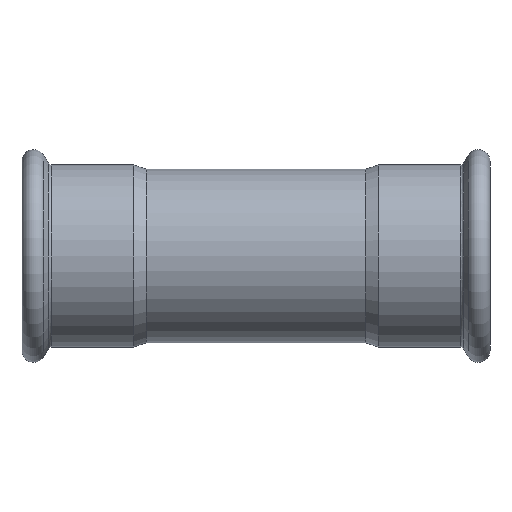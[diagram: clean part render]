
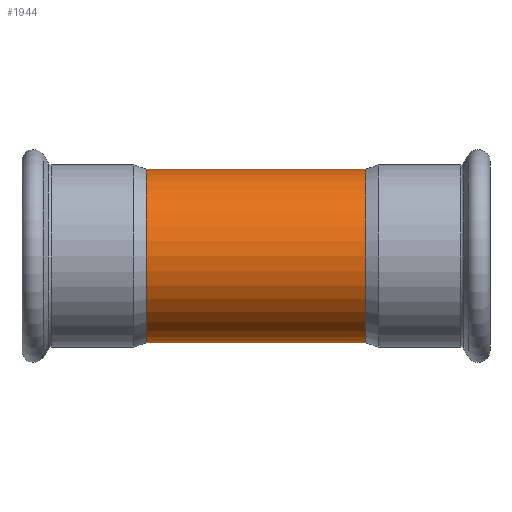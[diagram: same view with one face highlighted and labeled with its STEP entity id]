
A CAD part, front view. The second image highlights one B-rep face of the part: STEP entity #1944.
In plain terms, the highlighted cylindrical face has radius 44.45 mm (diameter 88.9 mm), a full revolution.
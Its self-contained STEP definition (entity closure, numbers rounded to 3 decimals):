
#1759=CARTESIAN_POINT('',(0.,42.674,12.44));
#1760=VERTEX_POINT('',#1759);
#1831=CARTESIAN_POINT('',(0.,42.674,12.44));
#1832=CARTESIAN_POINT('',(0.,42.674,12.44));
#1833=CARTESIAN_POINT('',(0.,42.674,12.44));
#1834=CARTESIAN_POINT('',(0.,42.674,12.44));
#1835=CARTESIAN_POINT('',(0.486,42.674,12.44));
#1836=CARTESIAN_POINT('',(1.459,42.689,12.387));
#1837=CARTESIAN_POINT('',(3.375,42.778,12.078));
#1838=CARTESIAN_POINT('',(5.241,42.953,11.451));
#1839=CARTESIAN_POINT('',(6.933,43.181,10.554));
#1840=CARTESIAN_POINT('',(8.117,43.37,9.75));
#1841=CARTESIAN_POINT('',(9.207,43.57,8.82));
#1842=CARTESIAN_POINT('',(10.069,43.746,7.897));
#1843=CARTESIAN_POINT('',(10.738,43.892,7.033));
#1844=CARTESIAN_POINT('',(11.428,44.051,5.987));
#1845=CARTESIAN_POINT('',(12.139,44.225,4.581));
#1846=CARTESIAN_POINT('',(12.715,44.374,2.806));
#1847=CARTESIAN_POINT('',(13.012,44.453,0.949));
#1848=CARTESIAN_POINT('',(13.012,44.453,-0.621));
#1849=CARTESIAN_POINT('',(12.867,44.415,-1.851));
#1850=CARTESIAN_POINT('',(12.626,44.351,-3.078));
#1851=CARTESIAN_POINT('',(12.239,44.251,-4.274));
#1852=CARTESIAN_POINT('',(11.718,44.122,-5.413));
#1853=CARTESIAN_POINT('',(11.117,43.978,-6.501));
#1854=CARTESIAN_POINT('',(10.202,43.771,-7.785));
#1855=CARTESIAN_POINT('',(8.877,43.504,-9.151));
#1856=CARTESIAN_POINT('',(7.371,43.244,-10.303));
#1857=CARTESIAN_POINT('',(5.963,43.047,-11.085));
#1858=CARTESIAN_POINT('',(4.774,42.915,-11.583));
#1859=CARTESIAN_POINT('',(3.557,42.802,-11.993));
#1860=CARTESIAN_POINT('',(1.966,42.701,-12.346));
#1861=CARTESIAN_POINT('',(0.001,42.66,-12.487));
#1862=CARTESIAN_POINT('',(-1.939,42.701,-12.348));
#1863=CARTESIAN_POINT('',(-3.859,42.821,-11.929));
#1864=CARTESIAN_POINT('',(-5.22,42.96,-11.415));
#1865=CARTESIAN_POINT('',(-6.369,43.104,-10.859));
#1866=CARTESIAN_POINT('',(-7.479,43.263,-10.219));
#1867=CARTESIAN_POINT('',(-8.878,43.504,-9.15));
#1868=CARTESIAN_POINT('',(-10.19,43.769,-7.798));
#1869=CARTESIAN_POINT('',(-11.168,43.989,-6.432));
#1870=CARTESIAN_POINT('',(-11.861,44.157,-5.141));
#1871=CARTESIAN_POINT('',(-12.335,44.275,-3.993));
#1872=CARTESIAN_POINT('',(-12.75,44.383,-2.594));
#1873=CARTESIAN_POINT('',(-12.963,44.44,-1.248));
#1874=CARTESIAN_POINT('',(-13.012,44.453,-0.002));
#1875=CARTESIAN_POINT('',(-12.964,44.44,1.237));
#1876=CARTESIAN_POINT('',(-12.72,44.375,2.788));
#1877=CARTESIAN_POINT('',(-12.235,44.25,4.283));
#1878=CARTESIAN_POINT('',(-11.719,44.122,5.412));
#1879=CARTESIAN_POINT('',(-11.113,43.977,6.507));
#1880=CARTESIAN_POINT('',(-10.286,43.79,7.666));
#1881=CARTESIAN_POINT('',(-9.209,43.571,8.817));
#1882=CARTESIAN_POINT('',(-7.773,43.307,10.047));
#1883=CARTESIAN_POINT('',(-6.111,43.058,11.049));
#1884=CARTESIAN_POINT('',(-4.325,42.867,11.759));
#1885=CARTESIAN_POINT('',(-2.445,42.721,12.282));
#1886=CARTESIAN_POINT('',(-0.971,42.674,12.44));
#1887=CARTESIAN_POINT('',(0.,42.674,12.44));
#1888=B_SPLINE_CURVE_WITH_KNOTS('',3,(#1831,#1832,#1833,#1834,#1835,#1836,#1837,#1838,#1839,#1840,#1841,#1842,#1843,#1844,#1845,#1846,#1847,#1848,#1849,#1850,#1851,#1852,#1853,#1854,#1855,#1856,#1857,#1858,#1859,#1860,#1861,#1862,#1863,#1864,#1865,#1866,#1867,#1868,#1869,#1870,#1871,#1872,#1873,#1874,#1875,#1876,#1877,#1878,#1879,#1880,#1881,#1882,#1883,#1884,#1885,#1886,#1887),.UNSPECIFIED.,.T.,.U.,(4,3,1,1,1,1,1,1,1,1,1,1,1,1,1,1,1,1,1,1,1,1,1,1,1,1,1,1,1,1,1,1,1,1,1,1,1,1,1,1,1,1,1,1,1,1,1,1,1,1,1,1,4),(-6.66,-6.66,-6.541,-6.422,-6.184,-6.065,-5.946,-5.827,-5.708,-5.629,-5.55,-5.391,-5.233,-5.074,-4.915,-4.836,-4.757,-4.598,-4.519,-4.44,-4.281,-4.123,-3.964,-3.805,-3.726,-3.647,-3.488,-3.33,-3.171,-3.013,-2.854,-2.814,-2.696,-2.537,-2.378,-2.22,-2.114,-2.008,-1.903,-1.744,-1.665,-1.586,-1.427,-1.268,-1.189,-1.11,-0.951,-0.832,-0.714,-0.476,-0.357,-0.238,0.),.UNSPECIFIED.);
#1889=EDGE_CURVE('',#1760,#1760,#1888,.T.);
#1914=CARTESIAN_POINT('',(0.,0.,0.0));
#1915=DIRECTION('',(1.0,0.,0.0));
#1916=DIRECTION('',(0.0,1.0,0.0));
#1917=AXIS2_PLACEMENT_3D('',#1914,#1915,#1916);
#1918=CYLINDRICAL_SURFACE('',#1917,44.45);
#1919=CARTESIAN_POINT('',(-56.328,44.45,0.0));
#1920=VERTEX_POINT('',#1919);
#1921=CARTESIAN_POINT('',(-56.328,0.,0.0));
#1922=DIRECTION('',(1.0,0.0,0.0));
#1923=DIRECTION('',(0.0,1.0,0.0));
#1924=AXIS2_PLACEMENT_3D('',#1921,#1922,#1923);
#1925=CIRCLE('',#1924,44.45);
#1926=EDGE_CURVE('',#1920,#1920,#1925,.T.);
#1927=ORIENTED_EDGE('',*,*,#1926,.T.);
#1928=EDGE_LOOP('',(#1927));
#1929=FACE_OUTER_BOUND('',#1928,.T.);
#1930=CARTESIAN_POINT('',(56.328,44.45,0.0));
#1931=VERTEX_POINT('',#1930);
#1932=CARTESIAN_POINT('',(56.328,0.,0.0));
#1933=DIRECTION('',(1.0,0.0,0.0));
#1934=DIRECTION('',(0.0,1.0,0.0));
#1935=AXIS2_PLACEMENT_3D('',#1932,#1933,#1934);
#1936=CIRCLE('',#1935,44.45);
#1937=EDGE_CURVE('',#1931,#1931,#1936,.T.);
#1938=ORIENTED_EDGE('',*,*,#1937,.F.);
#1939=EDGE_LOOP('',(#1938));
#1940=FACE_BOUND('',#1939,.T.);
#1941=ORIENTED_EDGE('',*,*,#1889,.F.);
#1942=EDGE_LOOP('',(#1941));
#1943=FACE_BOUND('',#1942,.T.);
#1944=ADVANCED_FACE('',(#1929,#1940,#1943),#1918,.T.);
